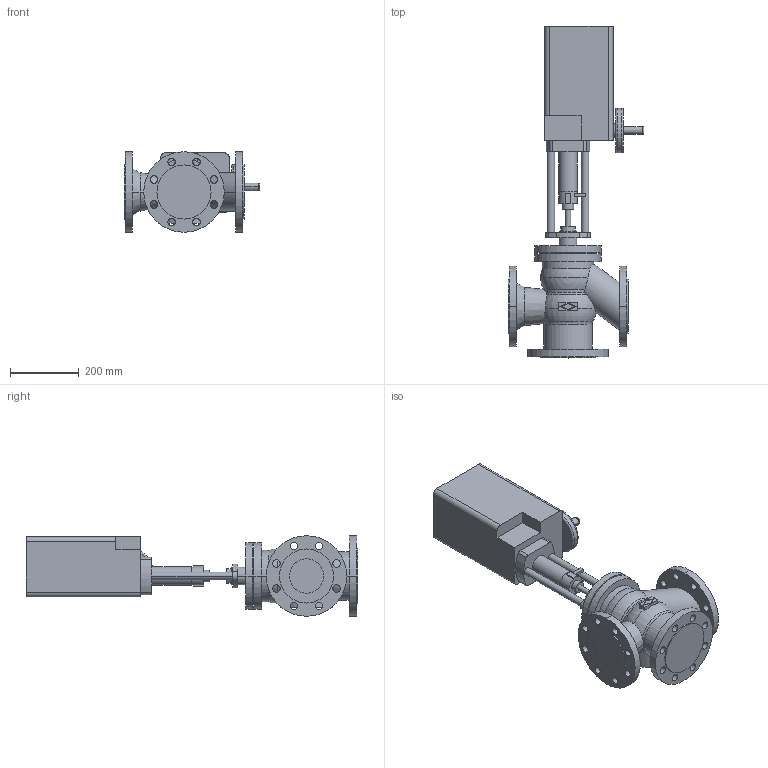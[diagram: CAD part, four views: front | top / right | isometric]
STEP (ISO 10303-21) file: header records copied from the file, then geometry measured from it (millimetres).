
FILE_DESCRIPTION(('OneSpaceDesigner STEP Export'),'2;1');
FILE_NAME('c000002423.stp','2006-09-19T12:10:36',(''),(''),'OneSpace Designer STEP processor for AP214 (Solid Model)','OneSpace Designer 13.20A 18-Aug-2005 (C) CoCreate Software GmbH','');
FILE_SCHEMA(('AUTOMOTIVE_DESIGN { 1 0 10303 214 1 1 1 1 }'));
Length unit declared in the file: millimetre
Products named in the file (2): 1; 2
Bounding box: 396.6 x 968 x 235 mm (x, y, z)
Volume: 23657959.6 mm3; surface area: 1022287 mm2
Topology: 2 solids, 2 shells, 220 faces, 554 edges, 363 vertices
Faces by surface type: cylinder 116, plane 78, torus 18, sphere 4, cone 4
Entity records: 6190 total; most frequent: CARTESIAN_POINT 1329, ORIENTED_EDGE 1100, DIRECTION 865, EDGE_CURVE 550, VERTEX_POINT 363, AXIS2_PLACEMENT_3D 317, EDGE_LOOP 297, VECTOR 231
